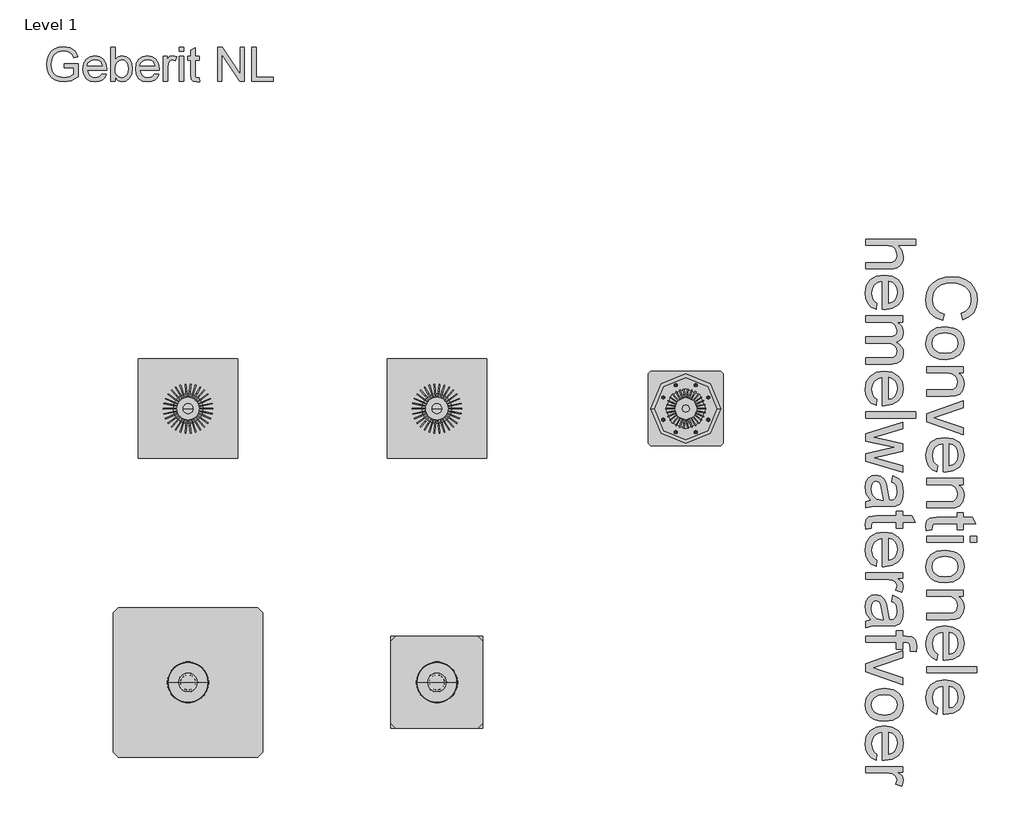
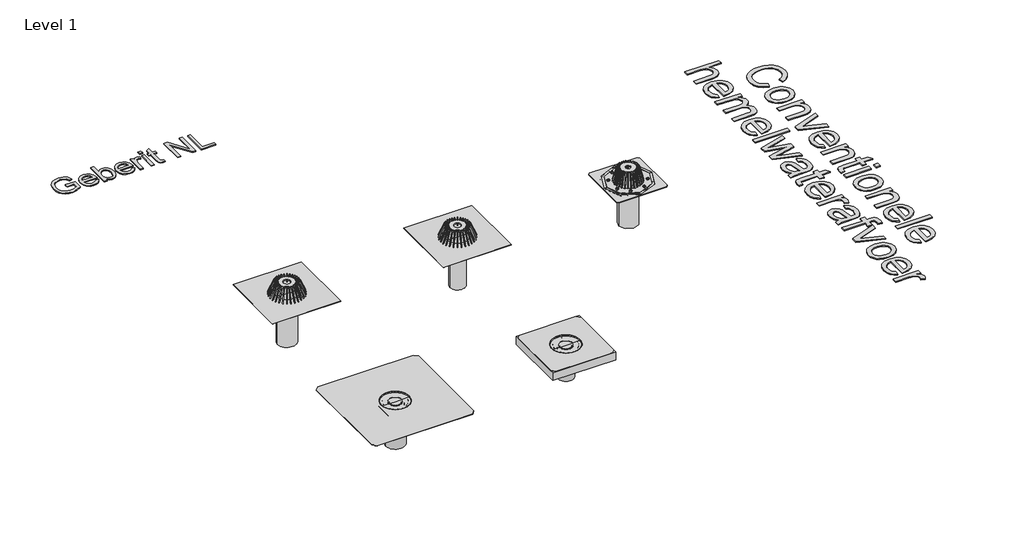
# One storey: 5 sanitary terminals, 2 proxies.
"""IFC4 building model written with IfcOpenShell, lengths in millimetres."""

from ifc_helpers import new_model, si_unit, origin, origin_with_axes, place, context, project, spatial, polyline, outline, extrude, transform, mapped, element, save
from components import sanitary_terminal_6ba0c00f, sanitary_terminal_1737b481, sanitary_terminal_2a380be2, sanitary_terminal_1db09d45, sanitary_terminal_4983428c

model = new_model("IFC4")

# Units and contexts
model_context = context("Model", 3, world=origin())
ifc_project = project(units=[si_unit("LENGTHUNIT", "METRE", prefix="MILLI")], contexts=[model_context])

# Site, building, storey
site = spatial("IfcSite", under=ifc_project)
building = spatial("IfcBuilding", under=site)
storey = spatial("IfcBuildingStorey", under=building, Name="Level 1", Elevation=0.0)

# Proxies
placement = place(None, origin())
element("IfcBuildingElementProxy", 1, Name="medium", ObjectType="medium", at=placement, inside=storey, context=model_context, shape_type="SweptSolid", body=[
    extrude(outline(polyline([(6577.1314241, -2108.8638675), (6570.656701, -2133.9779451), (6541.3916883, -2122.3896622), (6520.011613, -2104.2040289), (6506.9334081, -2080.3162247), (6502.5740064, -2051.6214291), (6505.8726816, -2022.4913064), (6515.7687073, -1999.3576603), (6531.9187269, -1981.6257481), (6553.9793839, -1968.7008274), (6579.9150645, -1960.8097586), (6607.6901552, -1958.1794023), (6636.9858247, -1961.1531151), (6662.2838433, -1970.0742535), (6682.7810018, -1984.4768336), (6697.6740912, -2003.8948716), (6706.7423824, -2026.9242845), (6709.7651461, -2052.1609893), (6705.8533342, -2079.6969567), (6694.1178986, -2102.4627208), (6675.2823404, -2119.7470432), (6650.070161, -2130.8386854), (6644.0859472, -2105.7246078), (6662.4003392, -2097.0180673), (6674.9635094, -2085.1232161), (6682.2291788, -2069.8929015), (6684.6510686, -2051.1799707), (6681.96553, -2029.609823), (6673.9089143, -2011.8901736), (6661.3273501, -1998.4440867), (6645.0669659, -1989.6946265), (6626.6851289, -1984.8937665), (6607.7392061, -1983.2934798), (6584.5381149, -1985.1880721), (6564.4762835, -1990.8718489), (6548.3201325, -2000.5594081), (6536.8360829, -2014.4653476), (6529.9750837, -2031.1365333), (6527.688084, -2049.1198315), (6530.8028182, -2070.0829739), (6540.1470209, -2087.5512373), (6555.6225901, -2100.7398068), (6577.1314241, -2108.8638675)])), origin_with_axes(), (0.0, 0.0, 1.0), 5.0),
    extrude(outline(polyline([(6579.4858689, -2159.0920226), (6615.0600578, -2164.5244134), (6628.8832238, -2171.3149019), (6640.0637708, -2180.8215858), (6652.3142412, -2200.9569936), (6656.3977313, -2225.0655271), (6651.425193, -2251.4487975), (6636.5075781, -2272.5223044), (6612.822109, -2286.3362734), (6581.5460081, -2290.9409297), (6556.1744131, -2288.905316), (6536.8606084, -2282.7984748), (6522.3967146, -2272.7982159), (6511.5748526, -2259.0823489), (6504.824218, -2242.7913079), (6502.5740064, -2225.0655271), (6507.5281506, -2198.3634256), (6522.3905832, -2177.3144441), (6546.572693, -2163.647628), (6579.4858689, -2159.0920226)]), holes=[polyline([(6579.5349198, -2184.2061001), (6556.8059439, -2187.1123679), (6540.6130047, -2195.8311712), (6530.9193142, -2208.9522957), (6527.688084, -2225.0655271), (6530.9377083, -2241.105182), (6540.6865811, -2254.2017811), (6557.0941181, -2262.9205844), (6580.3197347, -2265.8268521), (6602.3865231, -2262.9021903), (6618.358733, -2254.1282047), (6628.0524236, -2241.0132115), (6631.2836538, -2225.0655271), (6628.0646863, -2208.9522957), (6618.407784, -2195.8311712), (6602.251633, -2187.1123679), (6579.5349198, -2184.2061001)])]), origin_with_axes(), (0.0, 0.0, 1.0), 5.0),
    extrude(outline(polyline([(6505.7132661, -2319.1942669), (6653.2584716, -2319.1942669), (6653.2584716, -2344.3083444), (6632.6570799, -2344.3083444), (6643.0436149, -2353.0332791), (6650.4625685, -2363.5117846), (6654.9139406, -2375.7438609), (6656.3977313, -2389.7295081), (6651.6152654, -2413.4456341), (6639.0582266, -2429.6324418), (6620.5905505, -2437.16176), (6596.3103388, -2438.4861352), (6505.7132661, -2438.4861352), (6505.7132661, -2413.3720577), (6592.9258244, -2413.3720577), (6615.1458969, -2410.4780526), (6626.8935953, -2400.2509332), (6631.2836538, -2383.0095303), (6628.8188444, -2368.3003819), (6621.4244163, -2355.7617372), (6607.1383322, -2347.1716926), (6583.9985547, -2344.3083444), (6505.7132661, -2344.3083444), (6505.7132661, -2319.1942669)])), origin_with_axes(), (0.0, 0.0, 1.0), 5.0),
    extrude(outline(polyline([(6505.7132661, -2509.2175801), (6653.2584716, -2457.3216933), (6653.2584716, -2483.9072989), (6564.8686909, -2515.3489467), (6535.1438257, -2524.8157767), (6563.2009592, -2534.086403), (6653.2584716, -2565.7242546), (6653.2584716, -2592.3098601), (6505.7132661, -2541.0516354), (6505.7132661, -2509.2175801)])), origin_with_axes(), (0.0, 0.0, 1.0), 5.0),
    extrude(outline(polyline([(6549.6629018, -2717.5859422), (6546.5236421, -2742.2095104), (6527.9701268, -2733.337423), (6514.1009756, -2719.1800975), (6505.4557487, -2700.0563651), (6502.5740064, -2676.2850569), (6507.5465447, -2646.8177091), (6522.4641596, -2624.1439154), (6546.3580952, -2609.686153), (6578.2595956, -2604.8668989), (6611.2340851, -2609.7352039), (6635.8944415, -2624.3401192), (6651.2719089, -2646.7073445), (6656.3977313, -2674.8625798), (6651.2841716, -2702.1410298), (6635.9434924, -2723.938038), (6611.3321869, -2738.2302535), (6578.4067484, -2742.9943253), (6571.6377197, -2742.8471725), (6571.6377197, -2629.9809764), (6552.8389497, -2634.3281153), (6539.0188494, -2644.4264761), (6530.5207753, -2659.0007345), (6527.688084, -2676.7755662), (6532.9365338, -2701.3991344), (6539.7423507, -2710.5471334), (6549.6629018, -2717.5859422)]), holes=[polyline([(6596.7517972, -2629.9809764), (6596.7517972, -2717.8802478), (6610.0200745, -2714.4834707), (6619.51143, -2707.8248066), (6628.3405978, -2693.1831032), (6631.2836538, -2674.764478), (6628.9353404, -2657.8357748), (6621.8904002, -2643.8378649), (6610.9091226, -2634.1073861), (6596.7517972, -2629.9809764)])]), origin_with_axes(), (0.0, 0.0, 1.0), 5.0),
    extrude(outline(polyline([(6505.7132661, -2768.1084029), (6653.2584716, -2768.1084029), (6653.2584716, -2793.2224804), (6632.6570799, -2793.2224804), (6643.0436149, -2801.9474151), (6650.4625685, -2812.4259206), (6654.9139406, -2824.6579969), (6656.3977313, -2838.6436441), (6651.6152654, -2862.35977), (6639.0582266, -2878.5465778), (6620.5905505, -2886.075896), (6596.3103388, -2887.4002712), (6505.7132661, -2887.4002712), (6505.7132661, -2862.2861936), (6592.9258244, -2862.2861936), (6615.1458969, -2859.3921886), (6626.8935953, -2849.1650691), (6631.2836538, -2831.9236663), (6628.8188444, -2817.2145179), (6621.4244163, -2804.6758732), (6607.1383322, -2796.0858286), (6583.9985547, -2793.2224804), (6505.7132661, -2793.2224804), (6505.7132661, -2768.1084029)])), origin_with_axes(), (0.0, 0.0, 1.0), 5.0),
    extrude(outline(polyline([(6526.6580144, -2975.2995426), (6504.9775021, -2978.4388022), (6502.5740064, -2959.652295), (6506.7433357, -2938.6094449), (6517.6816937, -2928.1125453), (6546.1802856, -2925.0713875), (6628.1443941, -2925.0713875), (6628.1443941, -2906.2358293), (6653.2584716, -2906.2358293), (6653.2584716, -2925.0713875), (6689.1147034, -2925.0713875), (6703.8790342, -2950.185465), (6653.2584716, -2950.185465), (6653.2584716, -2975.2995426), (6628.1443941, -2975.2995426), (6628.1443941, -2950.185465), (6546.9160496, -2950.185465), (6533.9666033, -2951.5098402), (6529.3803411, -2955.8017968), (6527.688084, -2964.3611846), (6526.6580144, -2975.2995426)])), origin_with_axes(), (0.0, 0.0, 1.0), 5.0),
    extrude(outline(polyline([(6505.7132661, -3000.4136201), (6653.2584716, -3000.4136201), (6653.2584716, -3025.5276976), (6505.7132661, -3025.5276976), (6505.7132661, -3000.4136201)])), origin_with_axes(), (0.0, 0.0, 1.0), 5.0),
    extrude(outline(polyline([(6681.5118089, -3000.4136201), (6706.6258864, -3000.4136201), (6706.6258864, -3025.5276976), (6681.5118089, -3025.5276976), (6681.5118089, -3000.4136201)])), origin_with_axes(), (0.0, 0.0, 1.0), 5.0),
    extrude(outline(polyline([(6579.4858689, -3056.9202946), (6615.0600578, -3062.3526853), (6628.8832238, -3069.1431738), (6640.0637708, -3078.6498577), (6652.3142412, -3098.7852656), (6656.3977313, -3122.893799), (6651.425193, -3149.2770694), (6636.5075781, -3170.3505764), (6612.822109, -3184.1645453), (6581.5460081, -3188.7692016), (6556.1744131, -3186.7335879), (6536.8606084, -3180.6267468), (6522.3967146, -3170.6264879), (6511.5748526, -3156.9106208), (6504.824218, -3140.6195798), (6502.5740064, -3122.893799), (6507.5281506, -3096.1916975), (6522.3905832, -3075.142716), (6546.572693, -3061.4758999), (6579.4858689, -3056.9202946)]), holes=[polyline([(6579.5349198, -3082.0343721), (6556.8059439, -3084.9406399), (6540.6130047, -3093.6594431), (6530.9193142, -3106.7805676), (6527.688084, -3122.893799), (6530.9377083, -3138.933454), (6540.6865811, -3152.030053), (6557.0941181, -3160.7488563), (6580.3197347, -3163.6551241), (6602.3865231, -3160.7304622), (6618.358733, -3151.9564766), (6628.0524236, -3138.8414835), (6631.2836538, -3122.893799), (6628.0646863, -3106.7805676), (6618.407784, -3093.6594431), (6602.251633, -3084.9406399), (6579.5349198, -3082.0343721)])]), origin_with_axes(), (0.0, 0.0, 1.0), 5.0),
    extrude(outline(polyline([(6505.7132661, -3217.0225389), (6653.2584716, -3217.0225389), (6653.2584716, -3242.1366164), (6632.6570799, -3242.1366164), (6643.0436149, -3250.861551), (6650.4625685, -3261.3400565), (6654.9139406, -3273.5721329), (6656.3977313, -3287.5577801), (6651.6152654, -3311.273906), (6639.0582266, -3327.4607138), (6620.5905505, -3334.990032), (6596.3103388, -3336.3144072), (6505.7132661, -3336.3144072), (6505.7132661, -3311.2003296), (6592.9258244, -3311.2003296), (6615.1458969, -3308.3063246), (6626.8935953, -3298.0792051), (6631.2836538, -3280.8378023), (6628.8188444, -3266.1286538), (6621.4244163, -3253.5900092), (6607.1383322, -3244.9999646), (6583.9985547, -3242.1366164), (6505.7132661, -3242.1366164), (6505.7132661, -3217.0225389)])), origin_with_axes(), (0.0, 0.0, 1.0), 5.0),
    extrude(outline(polyline([(6549.6629018, -3474.147528), (6546.5236421, -3498.7710962), (6527.9701268, -3489.8990088), (6514.1009756, -3475.7416833), (6505.4557487, -3456.6179509), (6502.5740064, -3432.8466427), (6507.5465447, -3403.3792949), (6522.4641596, -3380.7055012), (6546.3580952, -3366.2477388), (6578.2595956, -3361.4284847), (6611.2340851, -3366.2967898), (6635.8944415, -3380.901705), (6651.2719089, -3403.2689303), (6656.3977313, -3431.4241656), (6651.2841716, -3458.7026156), (6635.9434924, -3480.4996238), (6611.3321869, -3494.7918393), (6578.4067484, -3499.5559111), (6571.6377197, -3499.4087583), (6571.6377197, -3386.5425622), (6552.8389497, -3390.8897011), (6539.0188494, -3400.9880619), (6530.5207753, -3415.5623203), (6527.688084, -3433.337152), (6532.9365338, -3457.9607202), (6539.7423507, -3467.1087192), (6549.6629018, -3474.147528)]), holes=[polyline([(6596.7517972, -3386.5425622), (6596.7517972, -3474.4418336), (6610.0200745, -3471.0450565), (6619.51143, -3464.3863924), (6628.3405978, -3449.744689), (6631.2836538, -3431.3260638), (6628.9353404, -3414.3973606), (6621.8904002, -3400.3994507), (6610.9091226, -3390.6689719), (6596.7517972, -3386.5425622)])]), origin_with_axes(), (0.0, 0.0, 1.0), 5.0),
    extrude(outline(polyline([(6505.7132661, -3524.6699887), (6706.6258864, -3524.6699887), (6706.6258864, -3549.7840662), (6505.7132661, -3549.7840662), (6505.7132661, -3524.6699887)])), origin_with_axes(), (0.0, 0.0, 1.0), 5.0),
    extrude(outline(polyline([(6549.6629018, -3690.7564468), (6546.5236421, -3715.380015), (6527.9701268, -3706.5079275), (6514.1009756, -3692.3506021), (6505.4557487, -3673.2268697), (6502.5740064, -3649.4555614), (6507.5465447, -3619.9882136), (6522.4641596, -3597.31442), (6546.3580952, -3582.8566576), (6578.2595956, -3578.0374035), (6611.2340851, -3582.9057085), (6635.8944415, -3597.5106237), (6651.2719089, -3619.877849), (6656.3977313, -3648.0330844), (6651.2841716, -3675.3115343), (6635.9434924, -3697.1085426), (6611.3321869, -3711.4007581), (6578.4067484, -3716.1648299), (6571.6377197, -3716.0176771), (6571.6377197, -3603.151481), (6552.8389497, -3607.4986199), (6539.0188494, -3617.5969807), (6530.5207753, -3632.171239), (6527.688084, -3649.9460708), (6532.9365338, -3674.569639), (6539.7423507, -3683.7176379), (6549.6629018, -3690.7564468)]), holes=[polyline([(6596.7517972, -3603.151481), (6596.7517972, -3691.0507524), (6610.0200745, -3687.6539753), (6619.51143, -3680.9953112), (6628.3405978, -3666.3536078), (6631.2836538, -3647.9349825), (6628.9353404, -3631.0062794), (6621.8904002, -3617.0083695), (6610.9091226, -3607.2778907), (6596.7517972, -3603.151481)])]), origin_with_axes(), (0.0, 0.0, 1.0), 5.0),
    extrude(outline(polyline([(6261.7636304, -1807.4949371), (6462.6762507, -1807.4949371), (6462.6762507, -1832.6090146), (6388.8055461, -1832.6090146), (6406.5374583, -1852.1925995), (6412.4480957, -1876.3133956), (6410.8355462, -1891.4823966), (6405.997898, -1904.5176819), (6398.3152957, -1914.7815896), (6388.167884, -1921.6364574), (6374.2251564, -1925.4992184), (6355.1566063, -1926.7868054), (6261.7636304, -1926.7868054), (6261.7636304, -1901.6727278), (6352.5569068, -1901.6727278), (6368.2777308, -1899.6739023), (6379.0444105, -1893.6774258), (6385.2616162, -1884.0143921), (6387.3340181, -1871.0158949), (6381.7422118, -1850.4390286), (6375.1571241, -1842.1862092), (6366.5854736, -1836.7047675), (6340.1470209, -1832.6090146), (6261.7636304, -1832.6090146), (6261.7636304, -1807.4949371)])), origin_with_axes(), (0.0, 0.0, 1.0), 5.0),
    extrude(outline(polyline([(6305.7132661, -2064.6199262), (6302.5740064, -2089.2434944), (6284.0204911, -2080.371407), (6270.1513399, -2066.2140815), (6261.506113, -2047.0903492), (6258.6243707, -2023.3190409), (6263.596909, -1993.8516931), (6278.5145239, -1971.1778995), (6302.4084595, -1956.720137), (6334.3099599, -1951.9008829), (6367.2844494, -1956.769188), (6391.9448058, -1971.3741032), (6407.3222732, -1993.7413285), (6412.4480957, -2021.8965639), (6407.3345359, -2049.1750138), (6391.9938567, -2070.972022), (6367.3825512, -2085.2642375), (6334.4571127, -2090.0283094), (6327.688084, -2089.8811566), (6327.688084, -1977.0149604), (6308.889314, -1981.3620994), (6295.0692137, -1991.4604601), (6286.5711396, -2006.0347185), (6283.7384483, -2023.8095502), (6288.9868981, -2048.4331184), (6295.792715, -2057.5811174), (6305.7132661, -2064.6199262)]), holes=[polyline([(6352.8021615, -1977.0149604), (6352.8021615, -2064.9142318), (6366.0704388, -2061.5174547), (6375.5617943, -2054.8587906), (6384.3909622, -2040.2170872), (6387.3340181, -2021.798462), (6384.9857047, -2004.8697588), (6377.9407645, -1990.8718489), (6366.9594869, -1981.1413702), (6352.8021615, -1977.0149604)])]), origin_with_axes(), (0.0, 0.0, 1.0), 5.0),
    extrude(outline(polyline([(6261.7636304, -2115.1423869), (6409.308836, -2115.1423869), (6409.308836, -2140.2564644), (6385.0286243, -2140.2564644), (6396.1815801, -2147.8103081), (6404.9187775, -2157.5223927), (6410.5657661, -2169.0616247), (6412.4480957, -2182.09691), (6410.5289779, -2196.0641631), (6404.7716247, -2207.2600385), (6395.5561807, -2215.6232225), (6383.2627907, -2221.0924015), (6396.0313616, -2230.2465318), (6405.1517694, -2240.6882491), (6410.6240141, -2252.4175534), (6412.4480957, -2265.4344447), (6409.4130692, -2284.3129224), (6400.3079898, -2298.2740441), (6384.8876028, -2306.9008769), (6362.9066536, -2309.7764878), (6261.7636304, -2309.7764878), (6261.7636304, -2284.6624103), (6352.1154484, -2284.6624103), (6373.0847222, -2282.332491), (6383.4099435, -2273.8957306), (6387.3340181, -2259.5483327), (6384.8201578, -2245.9428303), (6377.2785769, -2234.8511881), (6364.1942406, -2227.4751541), (6345.0521141, -2225.0164761), (6261.7636304, -2225.0164761), (6261.7636304, -2199.9023986), (6354.9113516, -2199.9023986), (6369.1115966, -2198.4492647), (6379.2406142, -2194.0898631), (6385.3106671, -2186.4195235), (6387.3340181, -2175.0335757), (6381.9384155, -2156.4432722), (6375.2920141, -2149.0856323), (6366.1440152, -2144.0824372), (6336.1738953, -2140.2564644), (6261.7636304, -2140.2564644), (6261.7636304, -2115.1423869)])), origin_with_axes(), (0.0, 0.0, 1.0), 5.0),
    extrude(outline(polyline([(6305.7132661, -2450.7488684), (6302.5740064, -2475.3724366), (6284.0204911, -2466.5003491), (6270.1513399, -2452.3430237), (6261.506113, -2433.2192913), (6258.6243707, -2409.447983), (6263.596909, -2379.9806352), (6278.5145239, -2357.3068416), (6302.4084595, -2342.8490792), (6334.3099599, -2338.029825), (6367.2844494, -2342.8981301), (6391.9448058, -2357.5030453), (6407.3222732, -2379.8702706), (6412.4480957, -2408.025506), (6407.3345359, -2435.3039559), (6391.9938567, -2457.1009641), (6367.3825512, -2471.3931797), (6334.4571127, -2476.1572515), (6327.688084, -2476.0100987), (6327.688084, -2363.1439026), (6308.889314, -2367.4910415), (6295.0692137, -2377.5894023), (6286.5711396, -2392.1636606), (6283.7384483, -2409.9384924), (6288.9868981, -2434.5620606), (6295.792715, -2443.7100595), (6305.7132661, -2450.7488684)]), holes=[polyline([(6352.8021615, -2363.1439026), (6352.8021615, -2451.043174), (6366.0704388, -2447.6463969), (6375.5617943, -2440.9877328), (6384.3909622, -2426.3460294), (6387.3340181, -2407.9274041), (6384.9857047, -2390.998701), (6377.9407645, -2377.0007911), (6366.9594869, -2367.2703123), (6352.8021615, -2363.1439026)])]), origin_with_axes(), (0.0, 0.0, 1.0), 5.0),
    extrude(outline(polyline([(6261.7636304, -2501.271329), (6462.6762507, -2501.271329), (6462.6762507, -2526.3854066), (6261.7636304, -2526.3854066), (6261.7636304, -2501.271329)])), origin_with_axes(), (0.0, 0.0, 1.0), 5.0),
    extrude(outline(polyline([(6261.7636304, -2588.5329383), (6409.308836, -2543.6513349), (6409.308836, -2569.7464311), (6323.2244491, -2595.2038651), (6292.4695143, -2602.8067597), (6322.0962776, -2609.0362282), (6409.308836, -2629.2942634), (6409.308836, -2659.2153323), (6322.3415323, -2679.3752656), (6295.5106721, -2684.918021), (6323.8130603, -2692.8642721), (6409.308836, -2718.3707571), (6409.308836, -2744.5639552), (6261.7636304, -2699.3389952), (6261.7636304, -2668.9764679), (6348.2894757, -2649.6994514), (6375.2674887, -2644.107645), (6261.7636304, -2619.2388222), (6261.7636304, -2588.5329383)])), origin_with_axes(), (0.0, 0.0, 1.0), 5.0),
    extrude(outline(polyline([(6280.5991886, -2856.0076743), (6263.5785149, -2831.6538862), (6258.6243707, -2804.7494496), (6261.6042149, -2783.7617818), (6270.5437474, -2768.2800811), (6284.118593, -2758.7335434), (6301.0043766, -2755.5513641), (6320.8700043, -2760.3583555), (6335.2909785, -2772.9889707), (6343.5315352, -2790.57373), (6347.308457, -2812.3032932), (6355.9414212, -2855.8605215), (6361.5332275, -2856.0076743), (6372.7413656, -2854.2786289), (6380.0744801, -2849.0914927), (6385.5191336, -2837.4909472), (6387.3340181, -2821.3286648), (6386.1261389, -2806.3681304), (6382.5025012, -2795.9202817), (6375.8009176, -2788.7956337), (6365.3592003, -2783.8047013), (6368.49846, -2758.6906238), (6393.0239263, -2769.5554054), (6401.2767457, -2778.8137689), (6407.3958496, -2791.4321214), (6412.4480957, -2824.5660264), (6407.9844608, -2855.0021301), (6396.7763227, -2872.194482), (6379.7311235, -2879.8954785), (6357.7563057, -2881.1217518), (6326.5108616, -2881.1217518), (6282.8800569, -2882.397076), (6261.7636304, -2887.4002712), (6261.7636304, -2862.2861936), (6280.5991886, -2856.0076743)]), holes=[polyline([(6330.8273437, -2856.0076743), (6323.1263472, -2815.4916038), (6319.0551198, -2793.884668), (6312.4332439, -2784.0990069), (6302.7702102, -2780.6654416), (6295.3022057, -2782.5355084), (6289.1831018, -2788.1457089), (6285.0996117, -2797.3734156), (6283.7384483, -2810.0960013), (6285.2406331, -2823.5850077), (6289.7471875, -2835.5043844), (6304.2907891, -2851.8873959), (6323.7149584, -2855.8605215), (6330.8273437, -2856.0076743)])]), origin_with_axes(), (0.0, 0.0, 1.0), 5.0),
    extrude(outline(polyline([(6282.7083787, -2969.0210232), (6261.0278664, -2972.1602829), (6258.6243707, -2953.3737756), (6262.7937, -2932.3309255), (6273.732058, -2921.8340259), (6302.2306499, -2918.7928681), (6384.1947584, -2918.7928681), (6384.1947584, -2899.9573099), (6409.308836, -2899.9573099), (6409.308836, -2918.7928681), (6445.1650678, -2918.7928681), (6459.9293985, -2943.9069456), (6409.308836, -2943.9069456), (6409.308836, -2969.0210232), (6384.1947584, -2969.0210232), (6384.1947584, -2943.9069456), (6302.9664139, -2943.9069456), (6290.0169677, -2945.2313208), (6285.4307054, -2949.5232774), (6283.7384483, -2958.0826652), (6282.7083787, -2969.0210232)])), origin_with_axes(), (0.0, 0.0, 1.0), 5.0),
    extrude(outline(polyline([(6305.7132661, -3097.436365), (6302.5740064, -3122.0599332), (6284.0204911, -3113.1878457), (6270.1513399, -3099.0305203), (6261.506113, -3079.9067879), (6258.6243707, -3056.1354796), (6263.596909, -3026.6681318), (6278.5145239, -3003.9943382), (6302.4084595, -2989.5365758), (6334.3099599, -2984.7173216), (6367.2844494, -2989.5856267), (6391.9448058, -3004.1905419), (6407.3222732, -3026.5577672), (6412.4480957, -3054.7130026), (6407.3345359, -3081.9914525), (6391.9938567, -3103.7884607), (6367.3825512, -3118.0806762), (6334.4571127, -3122.8447481), (6327.688084, -3122.6975953), (6327.688084, -3009.8313992), (6308.889314, -3014.1785381), (6295.0692137, -3024.2768988), (6286.5711396, -3038.8511572), (6283.7384483, -3056.625989), (6288.9868981, -3081.2495572), (6295.792715, -3090.3975561), (6305.7132661, -3097.436365)]), holes=[polyline([(6352.8021615, -3009.8313992), (6352.8021615, -3097.7306705), (6366.0704388, -3094.3338935), (6375.5617943, -3087.6752293), (6384.3909622, -3073.0335259), (6387.3340181, -3054.6149007), (6384.9857047, -3037.6861976), (6377.9407645, -3023.6882877), (6366.9594869, -3013.9578089), (6352.8021615, -3009.8313992)])]), origin_with_axes(), (0.0, 0.0, 1.0), 5.0),
    extrude(outline(polyline([(6261.7636304, -3147.9588256), (6409.308836, -3147.9588256), (6409.308836, -3169.9336435), (6387.4811709, -3169.9336435), (6407.5920533, -3185.5318401), (6412.4480957, -3201.2281385), (6410.5105838, -3213.7361264), (6404.6980483, -3226.4403179), (6382.1836702, -3218.0526084), (6387.3340181, -3200.3942727), (6382.3798739, -3186.1940277), (6368.6456128, -3177.1441306), (6339.313155, -3173.0729032), (6261.7636304, -3173.0729032), (6261.7636304, -3147.9588256)])), origin_with_axes(), (0.0, 0.0, 1.0), 5.0),
    extrude(outline(polyline([(6280.5991886, -3336.3144072), (6263.5785149, -3311.9606191), (6258.6243707, -3285.0561825), (6261.6042149, -3264.0685147), (6270.5437474, -3248.586814), (6284.118593, -3239.0402763), (6301.0043766, -3235.858097), (6320.8700043, -3240.6650884), (6335.2909785, -3253.2957036), (6343.5315352, -3270.8804629), (6347.308457, -3292.6100261), (6355.9414212, -3336.1672544), (6361.5332275, -3336.3144072), (6372.7413656, -3334.5853618), (6380.0744801, -3329.3982256), (6385.5191336, -3317.7976801), (6387.3340181, -3301.6353977), (6386.1261389, -3286.6748633), (6382.5025012, -3276.2270146), (6375.8009176, -3269.1023666), (6365.3592003, -3264.1114342), (6368.49846, -3238.9973567), (6393.0239263, -3249.8621383), (6401.2767457, -3259.1205018), (6407.3958496, -3271.7388543), (6412.4480957, -3304.8727593), (6407.9844608, -3335.308863), (6396.7763227, -3352.5012149), (6379.7311235, -3360.2022114), (6357.7563057, -3361.4284847), (6326.5108616, -3361.4284847), (6282.8800569, -3362.7038089), (6261.7636304, -3367.7070041), (6261.7636304, -3342.5929265), (6280.5991886, -3336.3144072)]), holes=[polyline([(6330.8273437, -3336.3144072), (6323.1263472, -3295.7983368), (6319.0551198, -3274.1914009), (6312.4332439, -3264.4057398), (6302.7702102, -3260.9721745), (6295.3022057, -3262.8422414), (6289.1831018, -3268.4524418), (6285.0996117, -3277.6801485), (6283.7384483, -3290.4027342), (6285.2406331, -3303.8917406), (6289.7471875, -3315.8111173), (6304.2907891, -3332.1941288), (6323.7149584, -3336.1672544), (6330.8273437, -3336.3144072)])]), origin_with_axes(), (0.0, 0.0, 1.0), 5.0),
    extrude(outline(polyline([(6261.7636304, -3402.2388607), (6384.1947584, -3402.2388607), (6384.1947584, -3380.2640428), (6409.308836, -3380.2640428), (6409.308836, -3402.2388607), (6424.1712686, -3402.2388607), (6445.1160168, -3404.8876111), (6453.4669381, -3409.9398571), (6460.0765513, -3417.7389554), (6464.3807706, -3428.6527879), (6465.8155104, -3443.0492367), (6463.0686582, -3465.9560223), (6439.5242105, -3462.2772023), (6440.7014329, -3447.8071772), (6436.5321036, -3431.9882514), (6430.5601525, -3428.5117665), (6420.9829579, -3427.3529382), (6409.308836, -3427.3529382), (6409.308836, -3455.6062755), (6384.1947584, -3455.6062755), (6384.1947584, -3427.3529382), (6261.7636304, -3427.3529382), (6261.7636304, -3402.2388607)])), origin_with_axes(), (0.0, 0.0, 1.0), 5.0),
    extrude(outline(polyline([(6261.7636304, -3513.7806816), (6409.308836, -3461.8847948), (6409.308836, -3488.4704004), (6320.9190553, -3519.9120482), (6291.19419, -3529.3788782), (6319.2513235, -3538.6495045), (6409.308836, -3570.2873561), (6409.308836, -3596.8729616), (6261.7636304, -3545.6147369), (6261.7636304, -3513.7806816)])), origin_with_axes(), (0.0, 0.0, 1.0), 5.0),
    extrude(outline(polyline([(6335.5362332, -3612.5692601), (6371.1104221, -3618.0016509), (6384.9335881, -3624.7921394), (6396.1141351, -3634.2988232), (6408.3646055, -3654.4342311), (6412.4480957, -3678.5427645), (6407.4755573, -3704.926035), (6392.5579424, -3725.9995419), (6368.8724733, -3739.8135108), (6337.5963724, -3744.4181671), (6312.2247774, -3742.3825534), (6292.9109727, -3736.2757123), (6278.4470789, -3726.2754534), (6267.6252169, -3712.5595864), (6260.8745823, -3696.2685453), (6258.6243707, -3678.5427645), (6263.5785149, -3651.8406631), (6278.4409475, -3630.7916816), (6302.6230574, -3617.1248654), (6335.5362332, -3612.5692601)]), holes=[polyline([(6335.5852841, -3637.6833376), (6312.8563082, -3640.5896054), (6296.663369, -3649.3084087), (6286.9696785, -3662.4295331), (6283.7384483, -3678.5427645), (6286.9880726, -3694.5824195), (6296.7369454, -3707.6790186), (6313.1444824, -3716.3978218), (6336.370099, -3719.3040896), (6358.4368874, -3716.3794277), (6374.4090973, -3707.6054422), (6384.1027879, -3694.490449), (6387.3340181, -3678.5427645), (6384.1150507, -3662.4295331), (6374.4581483, -3649.3084087), (6358.3019973, -3640.5896054), (6335.5852841, -3637.6833376)])]), origin_with_axes(), (0.0, 0.0, 1.0), 5.0),
    extrude(outline(polyline([(6305.7132661, -3875.9727686), (6302.5740064, -3900.5963368), (6284.0204911, -3891.7242494), (6270.1513399, -3877.5669239), (6261.506113, -3858.4431915), (6258.6243707, -3834.6718833), (6263.596909, -3805.2045355), (6278.5145239, -3782.5307418), (6302.4084595, -3768.0729794), (6334.3099599, -3763.2537253), (6367.2844494, -3768.1220304), (6391.9448058, -3782.7269456), (6407.3222732, -3805.0941709), (6412.4480957, -3833.2494062), (6407.3345359, -3860.5278562), (6391.9938567, -3882.3248644), (6367.3825512, -3896.6170799), (6334.4571127, -3901.3811517), (6327.688084, -3901.2339989), (6327.688084, -3788.3678028), (6308.889314, -3792.7149417), (6295.0692137, -3802.8133025), (6286.5711396, -3817.3875609), (6283.7384483, -3835.1623926), (6288.9868981, -3859.7859608), (6295.792715, -3868.9339598), (6305.7132661, -3875.9727686)]), holes=[polyline([(6352.8021615, -3788.3678028), (6352.8021615, -3876.2670742), (6366.0704388, -3872.8702971), (6375.5617943, -3866.211633), (6384.3909622, -3851.5699296), (6387.3340181, -3833.1513044), (6384.9857047, -3816.2226012), (6377.9407645, -3802.2246913), (6366.9594869, -3792.4942125), (6352.8021615, -3788.3678028)])]), origin_with_axes(), (0.0, 0.0, 1.0), 5.0),
    extrude(outline(polyline([(6261.7636304, -3926.4952293), (6409.308836, -3926.4952293), (6409.308836, -3948.4700471), (6387.4811709, -3948.4700471), (6407.5920533, -3964.0682437), (6412.4480957, -3979.7645422), (6410.5105838, -3992.27253), (6404.6980483, -4004.9767216), (6382.1836702, -3996.5890121), (6387.3340181, -3978.9306763), (6382.3798739, -3964.7304313), (6368.6456128, -3955.6805342), (6339.313155, -3951.6093068), (6261.7636304, -3951.6093068), (6261.7636304, -3926.4952293)])), origin_with_axes(), (0.0, 0.0, 1.0), 5.0),
])
element("IfcBuildingElementProxy", 2, Name="small", ObjectType="small", at=placement, inside=storey, context=model_context, shape_type="SweptSolid", body=[
    extrude(outline(polyline([(3040.6340077, -1119.6271586), (3040.6340077, -1102.3963894), (3096.6340077, -1102.3963894), (3096.6340077, -1153.9204278), (3068.9873731, -1170.1752355), (3039.7590077, -1175.6271586), (3020.4290798, -1173.4606923), (3002.958527, -1166.9612932), (2988.4453058, -1156.3561249), (2977.9873731, -1141.8723509), (2971.6646568, -1124.4985528), (2969.5570847, -1105.2233124), (2971.6562433, -1085.8092499), (2977.9537193, -1067.7497548), (2988.1886952, -1052.6013173), (3002.1003539, -1041.9204278), (3019.0450654, -1035.5850913), (3038.3792, -1033.4733124), (3065.3359308, -1038.3699471), (3084.2325654, -1051.9997548), (3094.6484308, -1074.8002355), (3078.7638154, -1079.2761971), (3070.9056423, -1063.3411009), (3057.4777577, -1054.1536009), (3038.1099693, -1050.7040817), (3016.0498731, -1054.4228317), (3001.0402577, -1064.1824471), (2992.1724693, -1077.4588894), (2986.7878539, -1104.5165817), (2988.4074452, -1120.9943461), (2993.2662193, -1134.5526394), (3001.2169404, -1145.0947067), (3012.1123731, -1152.5237932), (3038.3792, -1158.3963894), (3061.9537193, -1153.9709086), (3079.4032385, -1144.5310048), (3079.4032385, -1119.6271586), (3040.6340077, -1119.6271586)])), origin_with_axes(), (0.0, 0.0, 1.0), 5.0),
    extrude(outline(polyline([(3193.3551616, -1143.3194663), (3210.2493923, -1145.4733124), (3204.1622529, -1158.2028798), (3194.4489116, -1167.7185048), (3181.3281183, -1173.6499951), (3165.0186231, -1175.6271586), (3144.801075, -1172.2154999), (3129.2445847, -1161.980524), (3119.3251135, -1145.5868942), (3116.0186231, -1123.699274), (3119.3587673, -1101.0754759), (3129.3792, -1084.1560048), (3144.7253539, -1073.605524), (3164.0426616, -1070.0886971), (3182.7584068, -1073.5971105), (3197.7133347, -1084.1223509), (3207.5192241, -1101.0081682), (3210.7878539, -1123.5983124), (3210.6868923, -1128.2425432), (3133.2493923, -1128.2425432), (3136.2319645, -1141.1403798), (3143.16045, -1150.6223509), (3153.1598491, -1156.4528798), (3165.3551616, -1158.3963894), (3182.2493923, -1154.7954278), (3193.3551616, -1143.3194663)]), holes=[polyline([(3133.2493923, -1111.011774), (3193.5570847, -1111.011774), (3186.6580462, -1095.3963894), (3176.6123731, -1089.3386971), (3163.9753539, -1087.3194663), (3152.3605702, -1088.9306442), (3142.7566039, -1093.7641778), (3136.0805222, -1101.2984326), (3133.2493923, -1111.011774)])]), origin_with_axes(), (0.0, 0.0, 1.0), 5.0),
    extrude(outline(polyline([(3245.2493923, -1173.4733124), (3228.0186231, -1173.4733124), (3228.0186231, -1035.6271586), (3245.2493923, -1035.6271586), (3245.2493923, -1086.7473509), (3257.3142962, -1074.2533605), (3272.3070847, -1070.0886971), (3289.5715077, -1073.8411009), (3302.9657385, -1084.3915817), (3311.1941039, -1100.7978317), (3314.1724693, -1121.3435048), (3311.0889356, -1144.3459086), (3301.8383347, -1161.4588894), (3288.2632145, -1172.0850913), (3272.2061231, -1175.6271586), (3256.8852097, -1171.058649), (3245.2493923, -1157.3531201), (3245.2493923, -1173.4733124)]), holes=[polyline([(3245.2493923, -1122.1511971), (3246.427277, -1136.5213894), (3249.9609308, -1146.2473509), (3258.988575, -1155.3591298), (3270.7253539, -1158.3963894), (3280.6700654, -1156.1584086), (3289.1676616, -1149.4444663), (3294.9981904, -1138.2966298), (3296.9417, -1122.7569663), (3295.0781183, -1106.9901394), (3289.4873731, -1095.9685048), (3281.254801, -1089.4817259), (3271.4657385, -1087.3194663), (3261.521027, -1089.5574471), (3253.0234308, -1096.2713894), (3247.192902, -1107.2173028), (3245.2493923, -1122.1511971)])]), origin_with_axes(), (0.0, 0.0, 1.0), 5.0),
    extrude(outline(polyline([(3404.4320847, -1143.3194663), (3421.3263154, -1145.4733124), (3415.239176, -1158.2028798), (3405.5258347, -1167.7185048), (3392.4050414, -1173.6499951), (3376.0955462, -1175.6271586), (3355.8779981, -1172.2154999), (3340.3215077, -1161.980524), (3330.4020366, -1145.5868942), (3327.0955462, -1123.699274), (3330.4356904, -1101.0754759), (3340.4561231, -1084.1560048), (3355.802277, -1073.605524), (3375.1195847, -1070.0886971), (3393.8353298, -1073.5971105), (3408.7902577, -1084.1223509), (3418.5961472, -1101.0081682), (3421.864777, -1123.5983124), (3421.7638154, -1128.2425432), (3344.3263154, -1128.2425432), (3347.3088875, -1141.1403798), (3354.2373731, -1150.6223509), (3364.2367722, -1156.4528798), (3376.4320847, -1158.3963894), (3393.3263154, -1154.7954278), (3404.4320847, -1143.3194663)]), holes=[polyline([(3344.3263154, -1111.011774), (3404.6340077, -1111.011774), (3397.7349693, -1095.3963894), (3387.6892962, -1089.3386971), (3375.052277, -1087.3194663), (3363.4374933, -1088.9306442), (3353.833527, -1093.7641778), (3347.1574452, -1101.2984326), (3344.3263154, -1111.011774)])]), origin_with_axes(), (0.0, 0.0, 1.0), 5.0),
    extrude(outline(polyline([(3439.0955462, -1173.4733124), (3439.0955462, -1072.2425432), (3454.1724693, -1072.2425432), (3454.1724693, -1087.2185048), (3464.8743923, -1073.4204278), (3475.6436231, -1070.0886971), (3492.9417, -1075.4060048), (3487.1868923, -1090.8531201), (3475.0715077, -1087.3194663), (3465.3287193, -1090.7185048), (3459.1195847, -1100.1415817), (3456.3263154, -1120.2665817), (3456.3263154, -1173.4733124), (3439.0955462, -1173.4733124)])), origin_with_axes(), (0.0, 0.0, 1.0), 5.0),
    extrude(outline(polyline([(3503.7109308, -1173.4733124), (3503.7109308, -1072.2425432), (3520.9417, -1072.2425432), (3520.9417, -1173.4733124), (3503.7109308, -1173.4733124)])), origin_with_axes(), (0.0, 0.0, 1.0), 5.0),
    extrude(outline(polyline([(3503.7109308, -1052.8579278), (3503.7109308, -1035.6271586), (3520.9417, -1035.6271586), (3520.9417, -1052.8579278), (3503.7109308, -1052.8579278)])), origin_with_axes(), (0.0, 0.0, 1.0), 5.0),
    extrude(outline(polyline([(3583.4032385, -1159.1031201), (3585.5570847, -1173.9781201), (3572.6676616, -1175.6271586), (3558.2301616, -1172.7665817), (3551.0282385, -1165.261774), (3548.9417, -1145.7088894), (3548.9417, -1089.4733124), (3536.0186231, -1089.4733124), (3536.0186231, -1072.2425432), (3548.9417, -1072.2425432), (3548.9417, -1047.6415817), (3566.1724693, -1037.511774), (3566.1724693, -1072.2425432), (3583.4032385, -1072.2425432), (3583.4032385, -1089.4733124), (3566.1724693, -1089.4733124), (3566.1724693, -1145.2040817), (3567.0811231, -1154.0886971), (3570.0258347, -1157.2353317), (3575.8984308, -1158.3963894), (3583.4032385, -1159.1031201)])), origin_with_axes(), (0.0, 0.0, 1.0), 5.0),
    extrude(outline(polyline([(3656.6340077, -1173.4733124), (3656.6340077, -1035.6271586), (3675.0763154, -1035.6271586), (3747.0955462, -1144.8338894), (3747.0955462, -1035.6271586), (3764.3263154, -1035.6271586), (3764.3263154, -1173.4733124), (3745.8840077, -1173.4733124), (3673.864777, -1064.2329278), (3673.864777, -1173.4733124), (3656.6340077, -1173.4733124)])), origin_with_axes(), (0.0, 0.0, 1.0), 5.0),
    extrude(outline(polyline([(3794.4801616, -1173.4733124), (3794.4801616, -1035.6271586), (3811.7109308, -1035.6271586), (3811.7109308, -1156.2425432), (3880.6340077, -1156.2425432), (3880.6340077, -1173.4733124), (3794.4801616, -1173.4733124)])), origin_with_axes(), (0.0, 0.0, 1.0), 5.0),
])

# Sanitary terminals
sanitary_terminal_shape = sanitary_terminal_6ba0c00f(model_context)
element("IfcSanitaryTerminal", 3, ObjectType="NLRS_52_PF_LB_trechter met aansluitplaat ø90mm_geb : d90 - 5.5L/s", at=placement, inside=storey, context=model_context, shape_type="MappedRepresentation", body=[
    mapped(sanitary_terminal_shape, transform((4538.0335703, -2488.2482326, 0.0), x_axis=(1.0, 0.0, 0.0), y_axis=(0.0, 1.0, 0.0), z_axis=(0.0, 0.0, 1.0))),
])
sanitary_terminal_2_shape = sanitary_terminal_1737b481(model_context)
element("IfcSanitaryTerminal", 4, ObjectType="NLRS_52_PF_LB_Pluvia dampbarrière-aansluiting_geb : d90 - 25L/s", at=placement, inside=storey, context=model_context, shape_type="MappedRepresentation", body=[
    mapped(sanitary_terminal_2_shape, transform((4538.0335703, -3588.2482326, 0.0), x_axis=(1.0, 0.0, 0.0), y_axis=(0.0, 1.0, 0.0), z_axis=(0.0, 0.0, 1.0))),
])
sanitary_terminal_3_shape = sanitary_terminal_2a380be2(model_context)
element("IfcSanitaryTerminal", 5, ObjectType="NLRS_52_PF_LB_trechter met bevestigingsflens, voor dakbedekkingsfolies_geb : d110 - 7L/s", at=placement, inside=storey, context=model_context, shape_type="MappedRepresentation", body=[
    mapped(sanitary_terminal_3_shape, transform((5538.0335703, -2488.2482326, 0.0), x_axis=(1.0, 0.0, 0.0), y_axis=(0.0, 1.0, 0.0), z_axis=(0.0, 0.0, 1.0))),
])
sanitary_terminal_4_shape = sanitary_terminal_1db09d45(model_context)
element("IfcSanitaryTerminal", 6, ObjectType="NLRS_52_PF_LB_dampbarrière-aansluiting_geb : d110 - 25L/s", at=placement, inside=storey, context=model_context, shape_type="MappedRepresentation", body=[
    mapped(sanitary_terminal_4_shape, transform((3538.0335703, -3588.2482326, 0.0), x_axis=(1.0, 0.0, 0.0), y_axis=(0.0, 1.0, 0.0), z_axis=(0.0, 0.0, 1.0))),
])
sanitary_terminal_5_shape = sanitary_terminal_4983428c(model_context)
element("IfcSanitaryTerminal", 7, ObjectType="NLRS_52_PF_LB_trechter met aansluitplaat ø110mm_geb : d110 - 6L/s", at=placement, inside=storey, context=model_context, shape_type="MappedRepresentation", body=[
    mapped(sanitary_terminal_5_shape, transform((3538.0335703, -2488.2482326, 0.0), x_axis=(1.0, 0.0, 0.0), y_axis=(0.0, 1.0, 0.0), z_axis=(0.0, 0.0, 1.0))),
])

save(model, "model.ifc")
